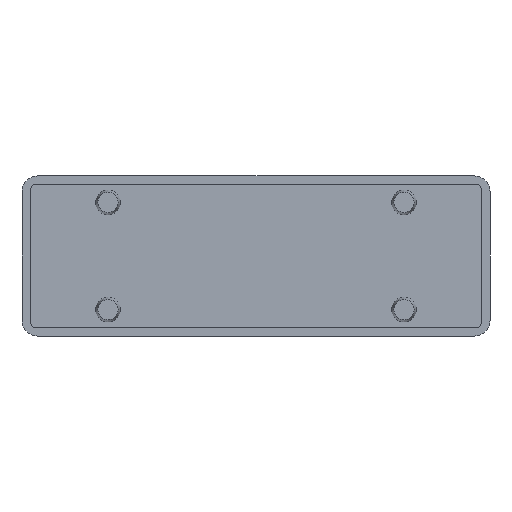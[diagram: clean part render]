
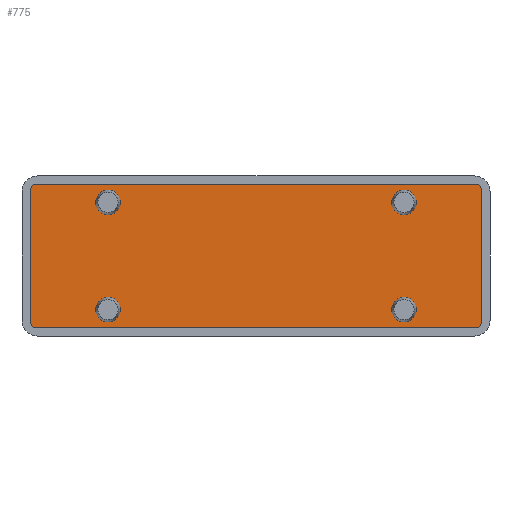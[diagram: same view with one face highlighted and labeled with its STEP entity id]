
A CAD part, front view. The second image highlights one B-rep face of the part: STEP entity #775.
In plain terms, the highlighted planar face has unit normal (0, -1, 0).
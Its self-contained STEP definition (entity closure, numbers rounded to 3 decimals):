
#1 = VECTOR ( 'NONE', #726, 1000. ) ;
#9 = AXIS2_PLACEMENT_3D ( 'NONE', #552, #1299, #145 ) ;
#10 = CARTESIAN_POINT ( 'NONE',  ( -3.5, 2.2, 3.5 ) ) ;
#17 = EDGE_CURVE ( 'NONE', #502, #707, #86, .T. ) ;
#20 = VERTEX_POINT ( 'NONE', #1304 ) ;
#22 = ORIENTED_EDGE ( 'NONE', *, *, #192, .F. ) ;
#38 = AXIS2_PLACEMENT_3D ( 'NONE', #509, #504, #1326 ) ;
#41 = CARTESIAN_POINT ( 'NONE',  ( -110.5, 2.2, 35.5 ) ) ;
#57 = CIRCLE ( 'NONE', #428, 3. ) ;
#61 = AXIS2_PLACEMENT_3D ( 'NONE', #378, #1201, #1097 ) ;
#68 = CARTESIAN_POINT ( 'NONE',  ( -20.95, 2.2, 6.45 ) ) ;
#83 = LINE ( 'NONE', #919, #1 ) ;
#86 = CIRCLE ( 'NONE', #312, 1.5 ) ;
#89 = EDGE_LOOP ( 'NONE', ( #627, #1157 ) ) ;
#91 = PLANE ( 'NONE',  #38 ) ;
#92 = CARTESIAN_POINT ( 'NONE',  ( -20.95, 2.2, 32.55 ) ) ;
#93 = EDGE_CURVE ( 'NONE', #853, #1123, #713, .T. ) ;
#96 = FACE_BOUND ( 'NONE', #89, .T. ) ;
#104 = VERTEX_POINT ( 'NONE', #907 ) ;
#122 = VERTEX_POINT ( 'NONE', #719 ) ;
#145 = DIRECTION ( 'NONE',  ( 0., 0., -1. ) ) ;
#149 = CARTESIAN_POINT ( 'NONE',  ( -2., 2.2, 3.5 ) ) ;
#155 = DIRECTION ( 'NONE',  ( 0., -1., 0. ) ) ;
#178 = DIRECTION ( 'NONE',  ( 0., -1., 0. ) ) ;
#182 = ORIENTED_EDGE ( 'NONE', *, *, #286, .T. ) ;
#189 = VERTEX_POINT ( 'NONE', #616 ) ;
#192 = EDGE_CURVE ( 'NONE', #20, #1093, #57, .T. ) ;
#197 = DIRECTION ( 'NONE',  ( 0., 0., -1. ) ) ;
#226 = VERTEX_POINT ( 'NONE', #1061 ) ;
#229 = ORIENTED_EDGE ( 'NONE', *, *, #535, .F. ) ;
#237 = AXIS2_PLACEMENT_3D ( 'NONE', #377, #760, #241 ) ;
#241 = DIRECTION ( 'NONE',  ( 0., 0., -1. ) ) ;
#259 = CIRCLE ( 'NONE', #1213, 1.5 ) ;
#286 = EDGE_CURVE ( 'NONE', #104, #853, #1150, .T. ) ;
#301 = LINE ( 'NONE', #508, #329 ) ;
#303 = CIRCLE ( 'NONE', #879, 1.5 ) ;
#306 = DIRECTION ( 'NONE',  ( -1., 0., 0. ) ) ;
#310 = FACE_BOUND ( 'NONE', #872, .T. ) ;
#311 = EDGE_CURVE ( 'NONE', #574, #104, #301, .T. ) ;
#312 = AXIS2_PLACEMENT_3D ( 'NONE', #476, #178, #901 ) ;
#316 = ORIENTED_EDGE ( 'NONE', *, *, #1242, .F. ) ;
#329 = VECTOR ( 'NONE', #803, 1000. ) ;
#347 = CIRCLE ( 'NONE', #804, 3. ) ;
#367 = DIRECTION ( 'NONE',  ( 0., 0., -1. ) ) ;
#377 = CARTESIAN_POINT ( 'NONE',  ( -93.05, 2.2, 6.45 ) ) ;
#378 = CARTESIAN_POINT ( 'NONE',  ( -20.95, 2.2, 32.55 ) ) ;
#380 = EDGE_CURVE ( 'NONE', #681, #502, #83, .T. ) ;
#409 = LINE ( 'NONE', #709, #625 ) ;
#413 = DIRECTION ( 'NONE',  ( 0., 0., -1. ) ) ;
#420 = EDGE_CURVE ( 'NONE', #226, #574, #259, .T. ) ;
#425 = DIRECTION ( 'NONE',  ( 0., -1., 0. ) ) ;
#428 = AXIS2_PLACEMENT_3D ( 'NONE', #92, #1132, #413 ) ;
#431 = CIRCLE ( 'NONE', #1166, 3. ) ;
#441 = VERTEX_POINT ( 'NONE', #1172 ) ;
#452 = CARTESIAN_POINT ( 'NONE',  ( -93.05, 2.2, 3.45 ) ) ;
#453 = ORIENTED_EDGE ( 'NONE', *, *, #311, .T. ) ;
#463 = CARTESIAN_POINT ( 'NONE',  ( -93.05, 2.2, 6.45 ) ) ;
#473 = DIRECTION ( 'NONE',  ( 0., 0., -1. ) ) ;
#476 = CARTESIAN_POINT ( 'NONE',  ( -110.5, 2.2, 3.5 ) ) ;
#486 = DIRECTION ( 'NONE',  ( 0., 0., -1. ) ) ;
#502 = VERTEX_POINT ( 'NONE', #637 ) ;
#504 = DIRECTION ( 'NONE',  ( 0., -1., 0. ) ) ;
#508 = CARTESIAN_POINT ( 'NONE',  ( -2., 2.2, 2. ) ) ;
#509 = CARTESIAN_POINT ( 'NONE',  ( -2., 2.2, 37. ) ) ;
#532 = ORIENTED_EDGE ( 'NONE', *, *, #93, .T. ) ;
#535 = EDGE_CURVE ( 'NONE', #789, #1187, #1320, .T. ) ;
#552 = CARTESIAN_POINT ( 'NONE',  ( -93.05, 2.2, 32.55 ) ) ;
#574 = VERTEX_POINT ( 'NONE', #149 ) ;
#577 = CARTESIAN_POINT ( 'NONE',  ( -93.05, 2.2, 32.55 ) ) ;
#616 = CARTESIAN_POINT ( 'NONE',  ( -93.05, 2.2, 29.55 ) ) ;
#620 = EDGE_CURVE ( 'NONE', #931, #441, #347, .T. ) ;
#625 = VECTOR ( 'NONE', #933, 1000. ) ;
#627 = ORIENTED_EDGE ( 'NONE', *, *, #807, .F. ) ;
#637 = CARTESIAN_POINT ( 'NONE',  ( -112., 2.2, 3.5 ) ) ;
#638 = ORIENTED_EDGE ( 'NONE', *, *, #849, .F. ) ;
#653 = ORIENTED_EDGE ( 'NONE', *, *, #657, .F. ) ;
#657 = EDGE_CURVE ( 'NONE', #1093, #20, #1070, .T. ) ;
#663 = AXIS2_PLACEMENT_3D ( 'NONE', #577, #1004, #486 ) ;
#678 = ORIENTED_EDGE ( 'NONE', *, *, #380, .T. ) ;
#679 = DIRECTION ( 'NONE',  ( 0., -1., 0. ) ) ;
#681 = VERTEX_POINT ( 'NONE', #1300 ) ;
#683 = CARTESIAN_POINT ( 'NONE',  ( -93.05, 2.2, 9.45 ) ) ;
#685 = EDGE_LOOP ( 'NONE', ( #1075, #316 ) ) ;
#688 = CARTESIAN_POINT ( 'NONE',  ( -20.95, 2.2, 35.55 ) ) ;
#697 = EDGE_CURVE ( 'NONE', #122, #189, #1089, .T. ) ;
#707 = VERTEX_POINT ( 'NONE', #1125 ) ;
#709 = CARTESIAN_POINT ( 'NONE',  ( -112., 2.2, 2. ) ) ;
#713 = LINE ( 'NONE', #1017, #1173 ) ;
#719 = CARTESIAN_POINT ( 'NONE',  ( -93.05, 2.2, 35.55 ) ) ;
#723 = EDGE_LOOP ( 'NONE', ( #678, #1240, #1037, #1192, #453, #182, #532, #1224 ) ) ;
#726 = DIRECTION ( 'NONE',  ( 0., 0., -1. ) ) ;
#760 = DIRECTION ( 'NONE',  ( 0., -1., 0. ) ) ;
#763 = EDGE_CURVE ( 'NONE', #707, #226, #409, .T. ) ;
#775 = ADVANCED_FACE ( 'NONE', ( #1040, #310, #1339, #1052, #96 ), #91, .T. ) ;
#776 = AXIS2_PLACEMENT_3D ( 'NONE', #1325, #925, #1241 ) ;
#789 = VERTEX_POINT ( 'NONE', #452 ) ;
#803 = DIRECTION ( 'NONE',  ( 0., 0., 1. ) ) ;
#804 = AXIS2_PLACEMENT_3D ( 'NONE', #68, #679, #197 ) ;
#807 = EDGE_CURVE ( 'NONE', #441, #931, #1154, .T. ) ;
#849 = EDGE_CURVE ( 'NONE', #1187, #789, #431, .T. ) ;
#853 = VERTEX_POINT ( 'NONE', #899 ) ;
#872 = EDGE_LOOP ( 'NONE', ( #638, #229 ) ) ;
#876 = EDGE_LOOP ( 'NONE', ( #653, #22 ) ) ;
#879 = AXIS2_PLACEMENT_3D ( 'NONE', #41, #155, #984 ) ;
#887 = DIRECTION ( 'NONE',  ( 0., -1., 0. ) ) ;
#899 = CARTESIAN_POINT ( 'NONE',  ( -3.5, 2.2, 37. ) ) ;
#901 = DIRECTION ( 'NONE',  ( 0., 0., -1. ) ) ;
#905 = DIRECTION ( 'NONE',  ( 0., -1., 0. ) ) ;
#907 = CARTESIAN_POINT ( 'NONE',  ( -2., 2.2, 35.5 ) ) ;
#919 = CARTESIAN_POINT ( 'NONE',  ( -112., 2.2, 37. ) ) ;
#925 = DIRECTION ( 'NONE',  ( 0., -1., 0. ) ) ;
#927 = CARTESIAN_POINT ( 'NONE',  ( -20.95, 2.2, 3.45 ) ) ;
#931 = VERTEX_POINT ( 'NONE', #927 ) ;
#933 = DIRECTION ( 'NONE',  ( 1., 0., 0. ) ) ;
#968 = CIRCLE ( 'NONE', #9, 3. ) ;
#984 = DIRECTION ( 'NONE',  ( 0., 0., -1. ) ) ;
#1004 = DIRECTION ( 'NONE',  ( 0., -1., 0. ) ) ;
#1017 = CARTESIAN_POINT ( 'NONE',  ( -2., 2.2, 37. ) ) ;
#1037 = ORIENTED_EDGE ( 'NONE', *, *, #763, .T. ) ;
#1040 = FACE_BOUND ( 'NONE', #876, .T. ) ;
#1052 = FACE_BOUND ( 'NONE', #685, .T. ) ;
#1058 = DIRECTION ( 'NONE',  ( 0., 0., -1. ) ) ;
#1061 = CARTESIAN_POINT ( 'NONE',  ( -3.5, 2.2, 2. ) ) ;
#1064 = CARTESIAN_POINT ( 'NONE',  ( -110.5, 2.2, 37. ) ) ;
#1070 = CIRCLE ( 'NONE', #61, 3. ) ;
#1075 = ORIENTED_EDGE ( 'NONE', *, *, #697, .F. ) ;
#1089 = CIRCLE ( 'NONE', #663, 3. ) ;
#1093 = VERTEX_POINT ( 'NONE', #688 ) ;
#1097 = DIRECTION ( 'NONE',  ( 0., 0., -1. ) ) ;
#1123 = VERTEX_POINT ( 'NONE', #1064 ) ;
#1125 = CARTESIAN_POINT ( 'NONE',  ( -110.5, 2.2, 2. ) ) ;
#1132 = DIRECTION ( 'NONE',  ( 0., -1., 0. ) ) ;
#1150 = CIRCLE ( 'NONE', #776, 1.5 ) ;
#1154 = CIRCLE ( 'NONE', #1321, 3. ) ;
#1157 = ORIENTED_EDGE ( 'NONE', *, *, #620, .F. ) ;
#1166 = AXIS2_PLACEMENT_3D ( 'NONE', #463, #905, #473 ) ;
#1172 = CARTESIAN_POINT ( 'NONE',  ( -20.95, 2.2, 9.45 ) ) ;
#1173 = VECTOR ( 'NONE', #306, 1000. ) ;
#1187 = VERTEX_POINT ( 'NONE', #683 ) ;
#1192 = ORIENTED_EDGE ( 'NONE', *, *, #420, .T. ) ;
#1201 = DIRECTION ( 'NONE',  ( 0., -1., 0. ) ) ;
#1213 = AXIS2_PLACEMENT_3D ( 'NONE', #10, #425, #1058 ) ;
#1224 = ORIENTED_EDGE ( 'NONE', *, *, #1248, .T. ) ;
#1240 = ORIENTED_EDGE ( 'NONE', *, *, #17, .T. ) ;
#1241 = DIRECTION ( 'NONE',  ( 0., 0., -1. ) ) ;
#1242 = EDGE_CURVE ( 'NONE', #189, #122, #968, .T. ) ;
#1248 = EDGE_CURVE ( 'NONE', #1123, #681, #303, .T. ) ;
#1288 = CARTESIAN_POINT ( 'NONE',  ( -20.95, 2.2, 6.45 ) ) ;
#1299 = DIRECTION ( 'NONE',  ( 0., -1., 0. ) ) ;
#1300 = CARTESIAN_POINT ( 'NONE',  ( -112., 2.2, 35.5 ) ) ;
#1304 = CARTESIAN_POINT ( 'NONE',  ( -20.95, 2.2, 29.55 ) ) ;
#1320 = CIRCLE ( 'NONE', #237, 3. ) ;
#1321 = AXIS2_PLACEMENT_3D ( 'NONE', #1288, #887, #367 ) ;
#1325 = CARTESIAN_POINT ( 'NONE',  ( -3.5, 2.2, 35.5 ) ) ;
#1326 = DIRECTION ( 'NONE',  ( 0., 0., -1. ) ) ;
#1339 = FACE_OUTER_BOUND ( 'NONE', #723, .T. ) ;
